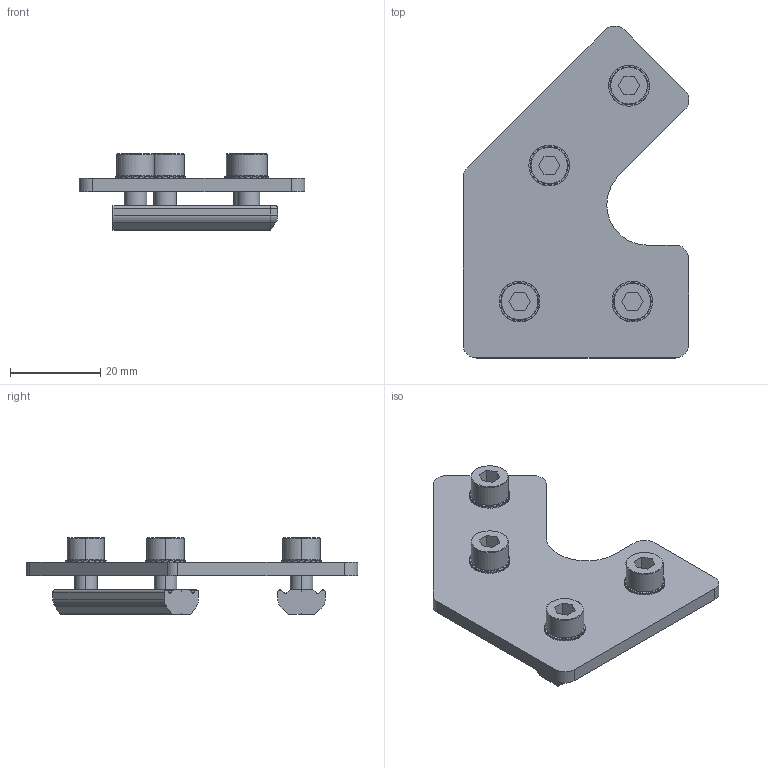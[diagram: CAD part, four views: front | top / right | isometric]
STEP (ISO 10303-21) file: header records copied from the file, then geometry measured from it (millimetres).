
FILE_DESCRIPTION (( 'STEP AP214' ), '1' );
FILE_NAME ('SFP-50.STEP', '2019-10-30T09:27:49', ( '微软用户' ), ( '微软中国' ), 'SwSTEP 2.0', 'SolidWorks 2016', '' );
FILE_SCHEMA (( 'AUTOMOTIVE_DESIGN' ));
Length unit declared in the file: millimetre
Products named in the file (5): PTS-M5; PTN-M5P25; PTC-M5L12; SFP-50
Assembly tree (11 placements, depth 2):
  SFP-50
    SFP-50
    PTC-M5L12  x4
    PTN-M5P25  x2
    PTS-M5  x4
Bounding box: 50.02 x 73.57 x 17 mm (x, y, z)
Volume: 12589.2 mm3; surface area: 10902 mm2
Topology: 11 solids, 11 shells, 861 faces, 2517 edges, 1670 vertices
Faces by surface type: plane 745, cylinder 92, cone 24
Entity records: 9049 total; most frequent: CARTESIAN_POINT 1728, DIRECTION 1523, ORIENTED_EDGE 1518, EDGE_CURVE 759, AXIS2_PLACEMENT_3D 523, VERTEX_POINT 504, VECTOR 477, LINE 477
